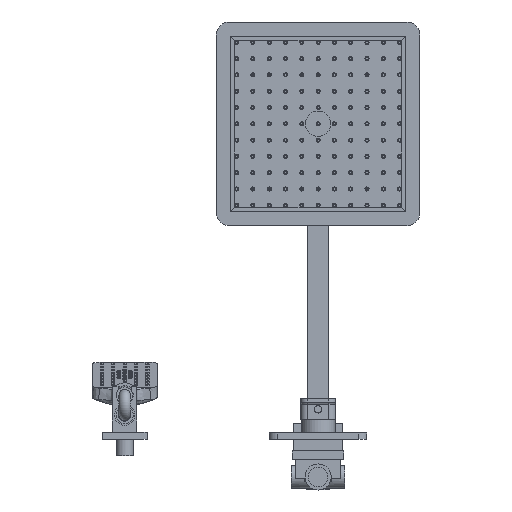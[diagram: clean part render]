
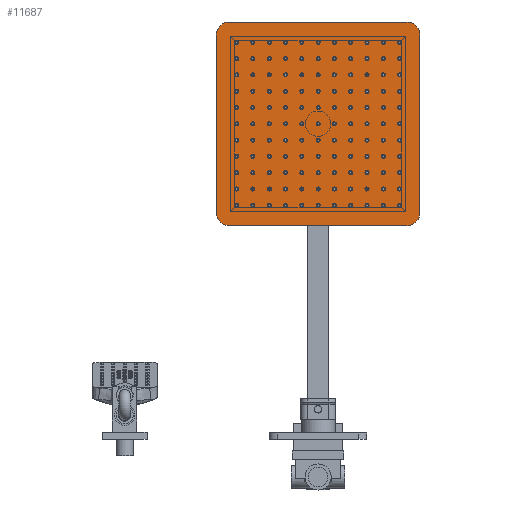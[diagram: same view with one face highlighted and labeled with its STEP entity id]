
A CAD part, front view. The second image highlights one B-rep face of the part: STEP entity #11687.
In plain terms, the highlighted planar face has unit normal (0, -1, 0).
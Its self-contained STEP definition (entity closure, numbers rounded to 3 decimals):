
#1342=PLANE('',#12936);
#1929=CIRCLE('',#12897,16.);
#1934=CIRCLE('',#12905,16.);
#1935=CIRCLE('',#12907,16.);
#1936=CIRCLE('',#12910,16.);
#2671=LINE('',#18945,#3490);
#2677=LINE('',#18960,#3496);
#2690=LINE('',#19016,#3509);
#2691=LINE('',#19018,#3510);
#3490=VECTOR('',#14631,10.);
#3496=VECTOR('',#14647,10.);
#3509=VECTOR('',#14712,10.);
#3510=VECTOR('',#14715,10.);
#4291=FACE_OUTER_BOUND('',#5092,.T.);
#5092=EDGE_LOOP('',(#8950,#8951,#8952,#8953,#8954,#8955,#8956,#8957));
#5954=VERTEX_POINT('',#18913);
#5955=VERTEX_POINT('',#18914);
#5968=VERTEX_POINT('',#18944);
#5969=VERTEX_POINT('',#18948);
#5970=VERTEX_POINT('',#18952);
#5971=VERTEX_POINT('',#18953);
#5972=VERTEX_POINT('',#18958);
#5973=VERTEX_POINT('',#18962);
#7137=EDGE_CURVE('',#5954,#5955,#1929,.T.);
#7152=EDGE_CURVE('',#5968,#5955,#2671,.T.);
#7154=EDGE_CURVE('',#5968,#5969,#1934,.T.);
#7156=EDGE_CURVE('',#5970,#5971,#1935,.T.);
#7160=EDGE_CURVE('',#5970,#5972,#2677,.T.);
#7161=EDGE_CURVE('',#5973,#5972,#1936,.T.);
#7186=EDGE_CURVE('',#5954,#5971,#2690,.T.);
#7187=EDGE_CURVE('',#5973,#5969,#2691,.T.);
#8950=ORIENTED_EDGE('',*,*,#7137,.F.);
#8951=ORIENTED_EDGE('',*,*,#7186,.T.);
#8952=ORIENTED_EDGE('',*,*,#7156,.F.);
#8953=ORIENTED_EDGE('',*,*,#7160,.T.);
#8954=ORIENTED_EDGE('',*,*,#7161,.F.);
#8955=ORIENTED_EDGE('',*,*,#7187,.T.);
#8956=ORIENTED_EDGE('',*,*,#7154,.F.);
#8957=ORIENTED_EDGE('',*,*,#7152,.T.);
#11687=ADVANCED_FACE('',(#4291),#1342,.T.);
#12897=AXIS2_PLACEMENT_3D('',#18915,#14607,#14608);
#12905=AXIS2_PLACEMENT_3D('',#18949,#14635,#14636);
#12907=AXIS2_PLACEMENT_3D('',#18954,#14640,#14641);
#12910=AXIS2_PLACEMENT_3D('',#18963,#14650,#14651);
#12936=AXIS2_PLACEMENT_3D('',#19019,#14716,#14717);
#14607=DIRECTION('center_axis',(0.,1.,0.));
#14608=DIRECTION('ref_axis',(-0.707,0.,0.707));
#14631=DIRECTION('',(-1.,0.,0.));
#14635=DIRECTION('center_axis',(0.,1.,0.));
#14636=DIRECTION('ref_axis',(0.707,0.,0.707));
#14640=DIRECTION('center_axis',(0.,1.,0.));
#14641=DIRECTION('ref_axis',(-0.707,0.,-0.707));
#14647=DIRECTION('',(1.,0.,0.));
#14650=DIRECTION('center_axis',(0.,1.,0.));
#14651=DIRECTION('ref_axis',(0.707,0.,-0.707));
#14712=DIRECTION('',(0.,0.,-1.));
#14715=DIRECTION('',(0.,0.,1.));
#14716=DIRECTION('center_axis',(0.,-1.,0.));
#14717=DIRECTION('ref_axis',(0.,0.,-1.));
#18913=CARTESIAN_POINT('',(-125.,-2.,109.));
#18914=CARTESIAN_POINT('',(-109.,-2.,125.));
#18915=CARTESIAN_POINT('Origin',(-109.,-2.,109.));
#18944=CARTESIAN_POINT('',(109.,-2.,125.));
#18945=CARTESIAN_POINT('',(-125.,-2.,125.));
#18948=CARTESIAN_POINT('',(125.,-2.,109.));
#18949=CARTESIAN_POINT('Origin',(109.,-2.,109.));
#18952=CARTESIAN_POINT('',(-109.,-2.,-125.));
#18953=CARTESIAN_POINT('',(-125.,-2.,-109.));
#18954=CARTESIAN_POINT('Origin',(-109.,-2.,-109.));
#18958=CARTESIAN_POINT('',(109.,-2.,-125.));
#18960=CARTESIAN_POINT('',(125.,-2.,-125.));
#18962=CARTESIAN_POINT('',(125.,-2.,-109.));
#18963=CARTESIAN_POINT('Origin',(109.,-2.,-109.));
#19016=CARTESIAN_POINT('',(-125.,-2.,-125.));
#19018=CARTESIAN_POINT('',(125.,-2.,125.));
#19019=CARTESIAN_POINT('Origin',(0.,-2.,0.));
